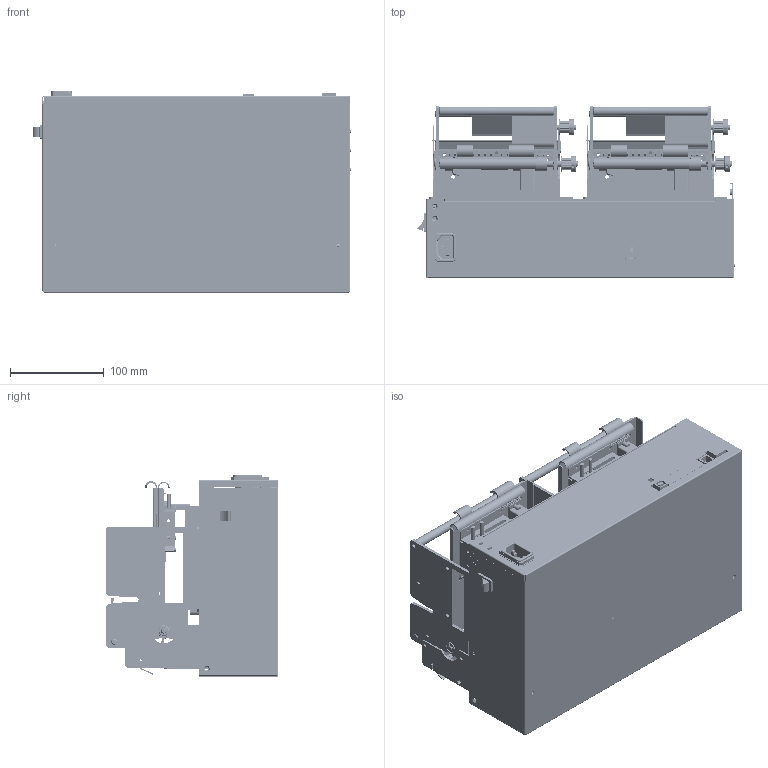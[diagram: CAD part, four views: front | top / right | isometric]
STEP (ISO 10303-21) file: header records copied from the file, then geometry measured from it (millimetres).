
FILE_DESCRIPTION (( 'STEP AP203' ), '1' );
FILE_NAME ('Lemur-2K 2013 0605.STEP', '2013-06-05T18:47:56', ( '' ), ( '' ), 'SwSTEP 2.0', 'SolidWorks 2013', '' );
FILE_SCHEMA (( 'CONFIG_CONTROL_DESIGN' ));
Length unit declared in the file: inch
Products named in the file (22): Power Socket - 3pin - 240V-10A; CLS-832-1; 421428Z-XP (SQ OPTO); BSOS-6440-10; FHS-440-10; 423446Z-2REC (REV A); CLS 632-1; CLS-832-2; CLS 440-1; 422521Z-DUAL (REV J); BSOS-6440-20; FHS 440-4; Lemur-2K 2013 0605; Alum Rivet .20 dia hole x .16 lg; CB - P46M simple on off switch; CB - Switching Power Supply; FHS-440-4; CB-A46E WITH DISPLAY; Csunk philips; Z-SERIES PRINT CAGE ASSY MOCK-UP
Assembly tree (53 placements, depth 3):
  Lemur-2K 2013 0605
    Z-SERIES PRINT CAGE ASSY MOCK-UP  x2
    421428Z-XP (SQ OPTO)  x2
    423446Z-2REC (REV A)
      423446Z-2REC (REV A)
      CLS 440-1  x7
      FHS 440-4  x2
    422521Z-DUAL (REV J)
      422521Z-DUAL (REV J)
      FHS-440-4
      Csunk philips  x4
      CLS-832-1  x2
      FHS-440-10  x2
      CLS-832-2  x2
      BSOS-6440-20  x4
      Alum Rivet .20 dia hole x .16 lg  x2
      CB - P46M simple on off switch
      CB - Switching Power Supply
      CB-A46E WITH DISPLAY
      Power Socket - 3pin - 240V-10A
      BSOS-6440-10  x8
      CLS 632-1  x2
    Alum Rivet .20 dia hole x .16 lg  x4
    Csunk philips
Bounding box: 337.71 x 183.26 x 215.41 mm (x, y, z)
Volume: 485346.5 mm3; surface area: 1124933.5 mm2
Topology: 141 solids, 187 shells, 6105 faces, 15914 edges, 10357 vertices
Faces by surface type: plane 3431, cylinder 2272, bspline 180, cone 170, torus 32, sphere 20
Entity records: 128756 total; most frequent: CARTESIAN_POINT 44757, ORIENTED_EDGE 18683, DIRECTION 13155, EDGE_CURVE 9358, VERTEX_POINT 6090, AXIS2_PLACEMENT_3D 4714, B_SPLINE_CURVE_WITH_KNOTS 4329, EDGE_LOOP 4221
